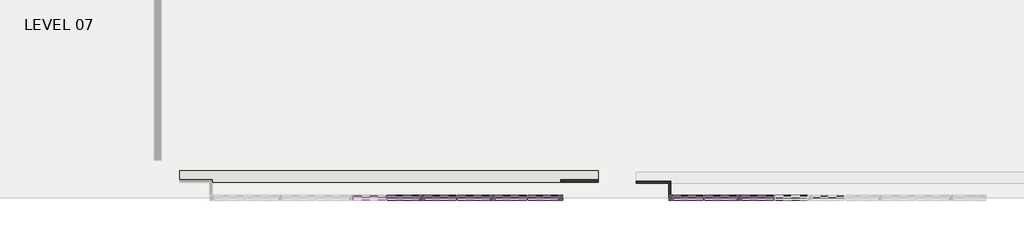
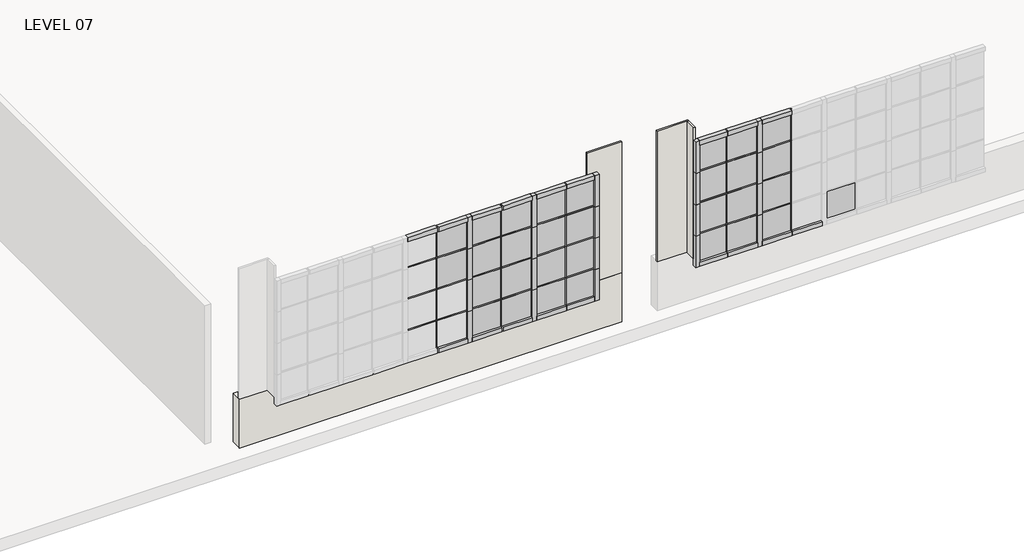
# One storey, part 3 of 15: 85 members, 31 plates, 4 walls.
"""IFC4 building model written with IfcOpenShell, lengths in millimetres."""

from ifc_helpers import new_model, si_unit, frame, origin, place, context, project, spatial, polyline, outline, extrude, faceted_brep, transform, mapped, element, save
from components import member_78bb2ef1, member_cb03ba1c, member_aa53491b, member_c1b5942e, member_9d26962d, member_378e0c06, member_17eb62f4, system_panel_glazed_79ade883, system_panel_glazed_12cc9f41, system_panel_glazed_730530c4, system_panel_glazed_b8d6571b

model = new_model("IFC4")

# Units and contexts
model_context = context("Model", 3, world=origin())
ifc_project = project(units=[si_unit("LENGTHUNIT", "METRE", prefix="MILLI")], contexts=[model_context])

# Site, building, storey
site = spatial("IfcSite", under=ifc_project)
building = spatial("IfcBuilding", under=site)
storey = spatial("IfcBuildingStorey", under=building, Name="LEVEL 07", Elevation=20802.6)

# Members
placement = place(None, origin())
member_shape = member_78bb2ef1(model_context)
element("IfcMember", 1, ObjectType="Rectangular Mullion : 1\" x 1\" - Butt Joint", at=placement, inside=storey, context=model_context, shape_type="MappedRepresentation", body=[
    mapped(member_shape, transform((-26493.9121217, -25119.8112062, 23342.6), x_axis=(1.0, 0.0, 0.0), y_axis=(0.0, -1.0, 0.0), z_axis=(0.0, 0.0, -1.0))),
])
element("IfcMember", 2, ObjectType="Rectangular Mullion : 1\" x 1\" - Butt Joint", at=placement, inside=storey, context=model_context, shape_type="MappedRepresentation", body=[
    mapped(member_shape, transform((-25355.9921217, -25119.8112062, 23342.6), x_axis=(1.0, 0.0, 0.0), y_axis=(0.0, -1.0, 0.0), z_axis=(0.0, 0.0, -1.0))),
])
element("IfcMember", 3, ObjectType="Rectangular Mullion : 1\" x 1\" - Butt Joint", at=placement, inside=storey, context=model_context, shape_type="MappedRepresentation", body=[
    mapped(member_shape, transform((-24218.0721217, -25119.8112062, 23342.6), x_axis=(1.0, 0.0, 0.0), y_axis=(0.0, -1.0, 0.0), z_axis=(0.0, 0.0, -1.0))),
])
element("IfcMember", 4, ObjectType="Rectangular Mullion : 1\" x 1\" - Butt Joint", at=placement, inside=storey, context=model_context, shape_type="MappedRepresentation", body=[
    mapped(member_shape, transform((-21377.1985758, -25119.8112062, 23342.6), x_axis=(1.0, 0.0, 0.0), y_axis=(0.0, -1.0, 0.0), z_axis=(0.0, 0.0, -1.0))),
])
element("IfcMember", 5, ObjectType="Rectangular Mullion : 1\" x 1\" - Butt Joint", at=placement, inside=storey, context=model_context, shape_type="MappedRepresentation", body=[
    mapped(member_shape, transform((-20239.2785758, -25119.8112062, 23342.6), x_axis=(1.0, 0.0, 0.0), y_axis=(0.0, -1.0, 0.0), z_axis=(0.0, 0.0, -1.0))),
])
member_2_shape = member_cb03ba1c(model_context)
element("IfcMember", 6, ObjectType="Rectangular Mullion : 1\" x 1\" - Butt Joint", at=placement, inside=storey, context=model_context, shape_type="MappedRepresentation", body=[
    mapped(member_2_shape, transform((-24825.1321217, -25119.8112062, 23342.6), x_axis=(0.0, 0.0, 1.0), y_axis=(0.0, -1.0, 0.0), z_axis=(1.0, 0.0, 0.0))),
])
element("IfcMember", 7, ObjectType="Rectangular Mullion : 1\" x 1\" - Butt Joint", at=placement, inside=storey, context=model_context, shape_type="MappedRepresentation", body=[
    mapped(member_2_shape, transform((-25963.0521217, -25119.8112062, 23342.6), x_axis=(0.0, 0.0, 1.0), y_axis=(0.0, -1.0, 0.0), z_axis=(1.0, 0.0, 0.0))),
])
element("IfcMember", 8, ObjectType="Rectangular Mullion : 1\" x 1\" - Butt Joint", at=placement, inside=storey, context=model_context, shape_type="MappedRepresentation", body=[
    mapped(member_2_shape, transform((-24230.7721217, -25119.8112062, 23342.6), x_axis=(0.0, 0.0, 1.0), y_axis=(0.0, -1.0, 0.0), z_axis=(1.0, 0.0, 0.0))),
])
element("IfcMember", 9, ObjectType="Rectangular Mullion : 1\" x 1\" - Butt Joint", at=placement, inside=storey, context=model_context, shape_type="MappedRepresentation", body=[
    mapped(member_2_shape, transform((-25368.6921217, -25119.8112062, 23342.6), x_axis=(0.0, 0.0, 1.0), y_axis=(0.0, -1.0, 0.0), z_axis=(1.0, 0.0, 0.0))),
])
element("IfcMember", 10, ObjectType="Rectangular Mullion : 1\" x 1\" - Butt Joint", at=placement, inside=storey, context=model_context, shape_type="MappedRepresentation", body=[
    mapped(member_2_shape, transform((-26506.6121217, -25119.8112062, 23342.6), x_axis=(0.0, 0.0, 1.0), y_axis=(0.0, -1.0, 0.0), z_axis=(1.0, 0.0, 0.0))),
])
element("IfcMember", 11, ObjectType="Rectangular Mullion : 1\" x 1\" - Butt Joint", at=placement, inside=storey, context=model_context, shape_type="MappedRepresentation", body=[
    mapped(member_2_shape, transform((-24825.1321217, -25119.8112062, 22758.4), x_axis=(0.0, 0.0, 1.0), y_axis=(0.0, -1.0, 0.0), z_axis=(1.0, 0.0, 0.0))),
])
element("IfcMember", 12, ObjectType="Rectangular Mullion : 1\" x 1\" - Butt Joint", at=placement, inside=storey, context=model_context, shape_type="MappedRepresentation", body=[
    mapped(member_2_shape, transform((-25963.0521217, -25119.8112062, 22758.4), x_axis=(0.0, 0.0, 1.0), y_axis=(0.0, -1.0, 0.0), z_axis=(1.0, 0.0, 0.0))),
])
element("IfcMember", 13, ObjectType="Rectangular Mullion : 1\" x 1\" - Butt Joint", at=placement, inside=storey, context=model_context, shape_type="MappedRepresentation", body=[
    mapped(member_2_shape, transform((-24230.7721217, -25119.8112062, 22758.4), x_axis=(0.0, 0.0, 1.0), y_axis=(0.0, -1.0, 0.0), z_axis=(1.0, 0.0, 0.0))),
])
element("IfcMember", 14, ObjectType="Rectangular Mullion : 1\" x 1\" - Butt Joint", at=placement, inside=storey, context=model_context, shape_type="MappedRepresentation", body=[
    mapped(member_2_shape, transform((-25368.6921217, -25119.8112062, 22758.4), x_axis=(0.0, 0.0, 1.0), y_axis=(0.0, -1.0, 0.0), z_axis=(1.0, 0.0, 0.0))),
])
element("IfcMember", 15, ObjectType="Rectangular Mullion : 1\" x 1\" - Butt Joint", at=placement, inside=storey, context=model_context, shape_type="MappedRepresentation", body=[
    mapped(member_2_shape, transform((-26506.6121217, -25119.8112062, 22758.4), x_axis=(0.0, 0.0, 1.0), y_axis=(0.0, -1.0, 0.0), z_axis=(1.0, 0.0, 0.0))),
])
element("IfcMember", 16, ObjectType="Rectangular Mullion : 1\" x 1\" - Butt Joint", at=placement, inside=storey, context=model_context, shape_type="MappedRepresentation", body=[
    mapped(member_2_shape, transform((-24825.1321217, -25119.8112062, 22174.2), x_axis=(0.0, 0.0, 1.0), y_axis=(0.0, -1.0, 0.0), z_axis=(1.0, 0.0, 0.0))),
])
element("IfcMember", 17, ObjectType="Rectangular Mullion : 1\" x 1\" - Butt Joint", at=placement, inside=storey, context=model_context, shape_type="MappedRepresentation", body=[
    mapped(member_2_shape, transform((-25963.0521217, -25119.8112062, 22174.2), x_axis=(0.0, 0.0, 1.0), y_axis=(0.0, -1.0, 0.0), z_axis=(1.0, 0.0, 0.0))),
])
element("IfcMember", 18, ObjectType="Rectangular Mullion : 1\" x 1\" - Butt Joint", at=placement, inside=storey, context=model_context, shape_type="MappedRepresentation", body=[
    mapped(member_2_shape, transform((-24230.7721217, -25119.8112062, 22174.2), x_axis=(0.0, 0.0, 1.0), y_axis=(0.0, -1.0, 0.0), z_axis=(1.0, 0.0, 0.0))),
])
element("IfcMember", 19, ObjectType="Rectangular Mullion : 1\" x 1\" - Butt Joint", at=placement, inside=storey, context=model_context, shape_type="MappedRepresentation", body=[
    mapped(member_2_shape, transform((-25368.6921217, -25119.8112062, 22174.2), x_axis=(0.0, 0.0, 1.0), y_axis=(0.0, -1.0, 0.0), z_axis=(1.0, 0.0, 0.0))),
])
element("IfcMember", 20, ObjectType="Rectangular Mullion : 1\" x 1\" - Butt Joint", at=placement, inside=storey, context=model_context, shape_type="MappedRepresentation", body=[
    mapped(member_2_shape, transform((-26506.6121217, -25119.8112062, 22174.2), x_axis=(0.0, 0.0, 1.0), y_axis=(0.0, -1.0, 0.0), z_axis=(1.0, 0.0, 0.0))),
])
element("IfcMember", 21, ObjectType="Rectangular Mullion : 1\" x 1\" - Butt Joint", at=placement, inside=storey, context=model_context, shape_type="MappedRepresentation", body=[
    mapped(member_2_shape, transform((-20846.3385758, -25119.8112062, 23342.6), x_axis=(0.0, 0.0, 1.0), y_axis=(0.0, -1.0, 0.0), z_axis=(1.0, 0.0, 0.0))),
])
element("IfcMember", 22, ObjectType="Rectangular Mullion : 1\" x 1\" - Butt Joint", at=placement, inside=storey, context=model_context, shape_type="MappedRepresentation", body=[
    mapped(member_2_shape, transform((-20251.9785758, -25119.8112062, 23342.6), x_axis=(0.0, 0.0, 1.0), y_axis=(0.0, -1.0, 0.0), z_axis=(1.0, 0.0, 0.0))),
])
element("IfcMember", 23, ObjectType="Rectangular Mullion : 1\" x 1\" - Butt Joint", at=placement, inside=storey, context=model_context, shape_type="MappedRepresentation", body=[
    mapped(member_2_shape, transform((-20846.3385758, -25119.8112062, 22758.4), x_axis=(0.0, 0.0, 1.0), y_axis=(0.0, -1.0, 0.0), z_axis=(1.0, 0.0, 0.0))),
])
element("IfcMember", 24, ObjectType="Rectangular Mullion : 1\" x 1\" - Butt Joint", at=placement, inside=storey, context=model_context, shape_type="MappedRepresentation", body=[
    mapped(member_2_shape, transform((-20251.9785758, -25119.8112062, 22758.4), x_axis=(0.0, 0.0, 1.0), y_axis=(0.0, -1.0, 0.0), z_axis=(1.0, 0.0, 0.0))),
])
element("IfcMember", 25, ObjectType="Rectangular Mullion : 1\" x 1\" - Butt Joint", at=placement, inside=storey, context=model_context, shape_type="MappedRepresentation", body=[
    mapped(member_2_shape, transform((-20846.3385758, -25119.8112062, 22174.2), x_axis=(0.0, 0.0, 1.0), y_axis=(0.0, -1.0, 0.0), z_axis=(1.0, 0.0, 0.0))),
])
element("IfcMember", 26, ObjectType="Rectangular Mullion : 1\" x 1\" - Butt Joint", at=placement, inside=storey, context=model_context, shape_type="MappedRepresentation", body=[
    mapped(member_2_shape, transform((-20251.9785758, -25119.8112062, 22174.2), x_axis=(0.0, 0.0, 1.0), y_axis=(0.0, -1.0, 0.0), z_axis=(1.0, 0.0, 0.0))),
])
member_3_shape = member_aa53491b(model_context)
element("IfcMember", 27, ObjectType="Rectangular Mullion : 1\" x 1\" - Butt Joint", at=placement, inside=storey, context=model_context, shape_type="MappedRepresentation", body=[
    mapped(member_3_shape, transform((-23725.3121217, -25119.8112062, 23342.6), x_axis=(0.0, 0.0, 1.0), y_axis=(0.0, -1.0, 0.0), z_axis=(1.0, 0.0, 0.0))),
])
element("IfcMember", 28, ObjectType="Rectangular Mullion : 1\" x 1\" - Butt Joint", at=placement, inside=storey, context=model_context, shape_type="MappedRepresentation", body=[
    mapped(member_3_shape, transform((-23725.3121217, -25119.8112062, 22758.4), x_axis=(0.0, 0.0, 1.0), y_axis=(0.0, -1.0, 0.0), z_axis=(1.0, 0.0, 0.0))),
])
element("IfcMember", 29, ObjectType="Rectangular Mullion : 1\" x 1\" - Butt Joint", at=placement, inside=storey, context=model_context, shape_type="MappedRepresentation", body=[
    mapped(member_3_shape, transform((-23725.3121217, -25119.8112062, 22174.2), x_axis=(0.0, 0.0, 1.0), y_axis=(0.0, -1.0, 0.0), z_axis=(1.0, 0.0, 0.0))),
])
element("IfcMember", 30, ObjectType="Rectangular Mullion : 1\" x 1\" - Butt Joint", at=placement, inside=storey, context=model_context, shape_type="MappedRepresentation", body=[
    mapped(member_3_shape, transform((-21389.8985758, -25119.8112062, 23342.6), x_axis=(0.0, 0.0, 1.0), y_axis=(0.0, -1.0, 0.0), z_axis=(1.0, 0.0, 0.0))),
])
element("IfcMember", 31, ObjectType="Rectangular Mullion : 1\" x 1\" - Butt Joint", at=placement, inside=storey, context=model_context, shape_type="MappedRepresentation", body=[
    mapped(member_3_shape, transform((-21389.8985758, -25119.8112062, 22758.4), x_axis=(0.0, 0.0, 1.0), y_axis=(0.0, -1.0, 0.0), z_axis=(1.0, 0.0, 0.0))),
])
element("IfcMember", 32, ObjectType="Rectangular Mullion : 1\" x 1\" - Butt Joint", at=placement, inside=storey, context=model_context, shape_type="MappedRepresentation", body=[
    mapped(member_3_shape, transform((-21389.8985758, -25119.8112062, 22174.2), x_axis=(0.0, 0.0, 1.0), y_axis=(0.0, -1.0, 0.0), z_axis=(1.0, 0.0, 0.0))),
])
element("IfcMember", 33, ObjectType="Rectangular Mullion : 1\" x 1\" - Butt Joint", at=placement, inside=storey, context=model_context, shape_type="MappedRepresentation", body=[
    mapped(member_shape, transform((-26493.9121217, -25119.8112062, 22758.4), x_axis=(1.0, 0.0, 0.0), y_axis=(0.0, -1.0, 0.0), z_axis=(0.0, 0.0, -1.0))),
])
element("IfcMember", 34, ObjectType="Rectangular Mullion : 1\" x 1\" - Butt Joint", at=placement, inside=storey, context=model_context, shape_type="MappedRepresentation", body=[
    mapped(member_shape, transform((-26493.9121217, -25119.8112062, 22174.2), x_axis=(1.0, 0.0, 0.0), y_axis=(0.0, -1.0, 0.0), z_axis=(0.0, 0.0, -1.0))),
])
element("IfcMember", 35, ObjectType="Rectangular Mullion : 1\" x 1\" - Butt Joint", at=placement, inside=storey, context=model_context, shape_type="MappedRepresentation", body=[
    mapped(member_shape, transform((-25355.9921217, -25119.8112062, 22758.4), x_axis=(1.0, 0.0, 0.0), y_axis=(0.0, -1.0, 0.0), z_axis=(0.0, 0.0, -1.0))),
])
element("IfcMember", 36, ObjectType="Rectangular Mullion : 1\" x 1\" - Butt Joint", at=placement, inside=storey, context=model_context, shape_type="MappedRepresentation", body=[
    mapped(member_shape, transform((-25355.9921217, -25119.8112062, 22174.2), x_axis=(1.0, 0.0, 0.0), y_axis=(0.0, -1.0, 0.0), z_axis=(0.0, 0.0, -1.0))),
])
element("IfcMember", 37, ObjectType="Rectangular Mullion : 1\" x 1\" - Butt Joint", at=placement, inside=storey, context=model_context, shape_type="MappedRepresentation", body=[
    mapped(member_shape, transform((-24218.0721217, -25119.8112062, 22758.4), x_axis=(1.0, 0.0, 0.0), y_axis=(0.0, -1.0, 0.0), z_axis=(0.0, 0.0, -1.0))),
])
element("IfcMember", 38, ObjectType="Rectangular Mullion : 1\" x 1\" - Butt Joint", at=placement, inside=storey, context=model_context, shape_type="MappedRepresentation", body=[
    mapped(member_shape, transform((-24218.0721217, -25119.8112062, 22174.2), x_axis=(1.0, 0.0, 0.0), y_axis=(0.0, -1.0, 0.0), z_axis=(0.0, 0.0, -1.0))),
])
element("IfcMember", 39, ObjectType="Rectangular Mullion : 1\" x 1\" - Butt Joint", at=placement, inside=storey, context=model_context, shape_type="MappedRepresentation", body=[
    mapped(member_shape, transform((-21377.1985758, -25119.8112062, 22758.4), x_axis=(1.0, 0.0, 0.0), y_axis=(0.0, -1.0, 0.0), z_axis=(0.0, 0.0, -1.0))),
])
element("IfcMember", 40, ObjectType="Rectangular Mullion : 1\" x 1\" - Butt Joint", at=placement, inside=storey, context=model_context, shape_type="MappedRepresentation", body=[
    mapped(member_shape, transform((-21377.1985758, -25119.8112062, 22174.2), x_axis=(1.0, 0.0, 0.0), y_axis=(0.0, -1.0, 0.0), z_axis=(0.0, 0.0, -1.0))),
])
element("IfcMember", 41, ObjectType="Rectangular Mullion : 1\" x 1\" - Butt Joint", at=placement, inside=storey, context=model_context, shape_type="MappedRepresentation", body=[
    mapped(member_shape, transform((-20239.2785758, -25119.8112062, 22758.4), x_axis=(1.0, 0.0, 0.0), y_axis=(0.0, -1.0, 0.0), z_axis=(0.0, 0.0, -1.0))),
])
element("IfcMember", 42, ObjectType="Rectangular Mullion : 1\" x 1\" - Butt Joint", at=placement, inside=storey, context=model_context, shape_type="MappedRepresentation", body=[
    mapped(member_shape, transform((-20239.2785758, -25119.8112062, 22174.2), x_axis=(1.0, 0.0, 0.0), y_axis=(0.0, -1.0, 0.0), z_axis=(0.0, 0.0, -1.0))),
])
element("IfcMember", 43, ObjectType="Rectangular Mullion : 1\" x 1\" - Butt Joint", at=placement, inside=storey, context=model_context, shape_type="MappedRepresentation", body=[
    mapped(member_shape, transform((-26493.9121217, -25119.8112062, 21590.0), x_axis=(1.0, 0.0, 0.0), y_axis=(0.0, -1.0, 0.0), z_axis=(0.0, 0.0, -1.0))),
])
element("IfcMember", 44, ObjectType="Rectangular Mullion : 1\" x 1\" - Butt Joint", at=placement, inside=storey, context=model_context, shape_type="MappedRepresentation", body=[
    mapped(member_shape, transform((-25355.9921217, -25119.8112062, 21590.0), x_axis=(1.0, 0.0, 0.0), y_axis=(0.0, -1.0, 0.0), z_axis=(0.0, 0.0, -1.0))),
])
element("IfcMember", 45, ObjectType="Rectangular Mullion : 1\" x 1\" - Butt Joint", at=placement, inside=storey, context=model_context, shape_type="MappedRepresentation", body=[
    mapped(member_shape, transform((-24218.0721217, -25119.8112062, 21590.0), x_axis=(1.0, 0.0, 0.0), y_axis=(0.0, -1.0, 0.0), z_axis=(0.0, 0.0, -1.0))),
])
element("IfcMember", 46, ObjectType="Rectangular Mullion : 1\" x 1\" - Butt Joint", at=placement, inside=storey, context=model_context, shape_type="MappedRepresentation", body=[
    mapped(member_shape, transform((-21377.1985758, -25119.8112062, 21590.0), x_axis=(1.0, 0.0, 0.0), y_axis=(0.0, -1.0, 0.0), z_axis=(0.0, 0.0, -1.0))),
])
element("IfcMember", 47, ObjectType="Rectangular Mullion : 1\" x 1\" - Butt Joint", at=placement, inside=storey, context=model_context, shape_type="MappedRepresentation", body=[
    mapped(member_shape, transform((-20239.2785758, -25119.8112062, 21590.0), x_axis=(1.0, 0.0, 0.0), y_axis=(0.0, -1.0, 0.0), z_axis=(0.0, 0.0, -1.0))),
])
member_4_shape = member_c1b5942e(model_context)
element("IfcMember", 48, ObjectType="Rectangular Mullion : 3\" x 3\" Window Jamb", at=placement, inside=storey, context=model_context, shape_type="MappedRepresentation", body=[
    mapped(member_4_shape, transform((-25343.2921217, -25119.8112062, 21590.0), x_axis=(0.0, 0.0, -1.0), y_axis=(0.0, -1.0, 0.0), z_axis=(-1.0, 0.0, 0.0))),
])
element("IfcMember", 49, ObjectType="Rectangular Mullion : 3\" x 3\" Window Jamb", at=placement, inside=storey, context=model_context, shape_type="MappedRepresentation", body=[
    mapped(member_4_shape, transform((-26481.2121217, -25119.8112062, 21590.0), x_axis=(0.0, 0.0, -1.0), y_axis=(0.0, -1.0, 0.0), z_axis=(-1.0, 0.0, 0.0))),
])
element("IfcMember", 50, ObjectType="Rectangular Mullion : 3\" x 3\" Window Jamb", at=placement, inside=storey, context=model_context, shape_type="MappedRepresentation", body=[
    mapped(member_4_shape, transform((-24748.9321217, -25119.8112062, 21590.0), x_axis=(0.0, 0.0, -1.0), y_axis=(0.0, -1.0, 0.0), z_axis=(-1.0, 0.0, 0.0))),
])
element("IfcMember", 51, ObjectType="Rectangular Mullion : 3\" x 3\" Window Jamb", at=placement, inside=storey, context=model_context, shape_type="MappedRepresentation", body=[
    mapped(member_4_shape, transform((-25886.8521217, -25119.8112062, 21590.0), x_axis=(0.0, 0.0, -1.0), y_axis=(0.0, -1.0, 0.0), z_axis=(-1.0, 0.0, 0.0))),
])
element("IfcMember", 52, ObjectType="Rectangular Mullion : 3\" x 3\" Window Jamb", at=placement, inside=storey, context=model_context, shape_type="MappedRepresentation", body=[
    mapped(member_4_shape, transform((-20226.5785758, -25119.8112062, 21590.0), x_axis=(0.0, 0.0, -1.0), y_axis=(0.0, -1.0, 0.0), z_axis=(-1.0, 0.0, 0.0))),
])
element("IfcMember", 53, ObjectType="Rectangular Mullion : 3\" x 3\" Window Jamb", at=placement, inside=storey, context=model_context, shape_type="MappedRepresentation", body=[
    mapped(member_4_shape, transform((-21364.4985758, -25119.8112062, 21590.0), x_axis=(0.0, 0.0, -1.0), y_axis=(0.0, -1.0, 0.0), z_axis=(-1.0, 0.0, 0.0))),
])
element("IfcMember", 54, ObjectType="Rectangular Mullion : 3\" x 3\" Window Jamb", at=placement, inside=storey, context=model_context, shape_type="MappedRepresentation", body=[
    mapped(member_4_shape, transform((-20770.1385758, -25119.8112062, 21590.0), x_axis=(0.0, 0.0, -1.0), y_axis=(0.0, -1.0, 0.0), z_axis=(-1.0, 0.0, 0.0))),
])
member_5_shape = member_9d26962d(model_context)
element("IfcMember", 55, ObjectType="Rectangular Mullion : 3\" x 3\" Window Jamb", at=placement, inside=storey, context=model_context, shape_type="MappedRepresentation", body=[
    mapped(member_5_shape, transform((-24205.3721217, -25119.8112062, 21590.0), x_axis=(0.0, 0.0, -1.0), y_axis=(0.0, -1.0, 0.0), z_axis=(-1.0, 0.0, 0.0))),
])
element("IfcMember", 56, ObjectType="Rectangular Mullion : 3\" x 3\" Window Jamb", at=placement, inside=storey, context=model_context, shape_type="MappedRepresentation", body=[
    mapped(member_5_shape, transform((-21869.9585758, -25119.8112062, 21590.0), x_axis=(0.0, 0.0, -1.0), y_axis=(0.0, -1.0, 0.0), z_axis=(-1.0, 0.0, 0.0))),
])
element("IfcMember", 57, ObjectType="Rectangular Mullion : 3\" x 3\" Window Jamb", at=placement, inside=storey, context=model_context, shape_type="MappedRepresentation", body=[
    mapped(member_5_shape, transform((-23725.3121217, -25119.8112062, 23926.8), x_axis=(0.0, 0.0, 1.0), y_axis=(0.0, -1.0, 0.0), z_axis=(1.0, 0.0, 0.0))),
])
element("IfcMember", 58, ObjectType="Rectangular Mullion : 3\" x 3\" Window Jamb", at=placement, inside=storey, context=model_context, shape_type="MappedRepresentation", body=[
    mapped(member_5_shape, transform((-21389.8985758, -25119.8112062, 23926.8), x_axis=(0.0, 0.0, 1.0), y_axis=(0.0, -1.0, 0.0), z_axis=(1.0, 0.0, 0.0))),
])
element("IfcMember", 59, ObjectType="Rectangular Mullion : 3\" x 3\" Window Jamb", at=placement, inside=storey, context=model_context, shape_type="MappedRepresentation", body=[
    mapped(member_4_shape, transform((-24230.7721217, -25119.8112062, 23926.8), x_axis=(0.0, 0.0, 1.0), y_axis=(0.0, -1.0, 0.0), z_axis=(1.0, 0.0, 0.0))),
])
element("IfcMember", 60, ObjectType="Rectangular Mullion : 3\" x 3\" Window Jamb", at=placement, inside=storey, context=model_context, shape_type="MappedRepresentation", body=[
    mapped(member_4_shape, transform((-25368.6921217, -25119.8112062, 23926.8), x_axis=(0.0, 0.0, 1.0), y_axis=(0.0, -1.0, 0.0), z_axis=(1.0, 0.0, 0.0))),
])
element("IfcMember", 61, ObjectType="Rectangular Mullion : 3\" x 3\" Window Jamb", at=placement, inside=storey, context=model_context, shape_type="MappedRepresentation", body=[
    mapped(member_4_shape, transform((-26506.6121217, -25119.8112062, 23926.8), x_axis=(0.0, 0.0, 1.0), y_axis=(0.0, -1.0, 0.0), z_axis=(1.0, 0.0, 0.0))),
])
element("IfcMember", 62, ObjectType="Rectangular Mullion : 3\" x 3\" Window Jamb", at=placement, inside=storey, context=model_context, shape_type="MappedRepresentation", body=[
    mapped(member_4_shape, transform((-24825.1321217, -25119.8112062, 23926.8), x_axis=(0.0, 0.0, 1.0), y_axis=(0.0, -1.0, 0.0), z_axis=(1.0, 0.0, 0.0))),
])
element("IfcMember", 63, ObjectType="Rectangular Mullion : 3\" x 3\" Window Jamb", at=placement, inside=storey, context=model_context, shape_type="MappedRepresentation", body=[
    mapped(member_4_shape, transform((-25963.0521217, -25119.8112062, 23926.8), x_axis=(0.0, 0.0, 1.0), y_axis=(0.0, -1.0, 0.0), z_axis=(1.0, 0.0, 0.0))),
])
element("IfcMember", 64, ObjectType="Rectangular Mullion : 3\" x 3\" Window Jamb", at=placement, inside=storey, context=model_context, shape_type="MappedRepresentation", body=[
    mapped(member_4_shape, transform((-20251.9785758, -25119.8112062, 23926.8), x_axis=(0.0, 0.0, 1.0), y_axis=(0.0, -1.0, 0.0), z_axis=(1.0, 0.0, 0.0))),
])
element("IfcMember", 65, ObjectType="Rectangular Mullion : 3\" x 3\" Window Jamb", at=placement, inside=storey, context=model_context, shape_type="MappedRepresentation", body=[
    mapped(member_4_shape, transform((-20846.3385758, -25119.8112062, 23926.8), x_axis=(0.0, 0.0, 1.0), y_axis=(0.0, -1.0, 0.0), z_axis=(1.0, 0.0, 0.0))),
])
member_6_shape = member_378e0c06(model_context)
element("IfcMember", 66, ObjectType="Rectangular Mullion : 3\" x 3\" Window Jamb", at=placement, inside=storey, context=model_context, shape_type="MappedRepresentation", body=[
    mapped(member_6_shape, transform((-25924.9521217, -25119.8112062, 23342.6), x_axis=(1.0, 0.0, 0.0), y_axis=(0.0, -1.0, 0.0), z_axis=(0.0, 0.0, -1.0))),
])
element("IfcMember", 67, ObjectType="Rectangular Mullion : 3\" x 3\" Window Jamb", at=placement, inside=storey, context=model_context, shape_type="MappedRepresentation", body=[
    mapped(member_6_shape, transform((-24787.0321217, -25119.8112062, 23342.6), x_axis=(1.0, 0.0, 0.0), y_axis=(0.0, -1.0, 0.0), z_axis=(0.0, 0.0, -1.0))),
])
element("IfcMember", 68, ObjectType="Rectangular Mullion : 3\" x 3\" Window Jamb", at=placement, inside=storey, context=model_context, shape_type="MappedRepresentation", body=[
    mapped(member_6_shape, transform((-20808.2385758, -25119.8112062, 23342.6), x_axis=(1.0, 0.0, 0.0), y_axis=(0.0, -1.0, 0.0), z_axis=(0.0, 0.0, -1.0))),
])
member_7_shape = member_17eb62f4(model_context)
element("IfcMember", 69, ObjectType="Rectangular Mullion : 3\" x 3\" Window Jamb", at=placement, inside=storey, context=model_context, shape_type="MappedRepresentation", body=[
    mapped(member_7_shape, transform((-23649.1121217, -25119.8112062, 23342.6), x_axis=(1.0, 0.0, 0.0), y_axis=(0.0, -1.0, 0.0), z_axis=(0.0, 0.0, -1.0))),
])
element("IfcMember", 70, ObjectType="Rectangular Mullion : 3\" x 3\" Window Jamb", at=placement, inside=storey, context=model_context, shape_type="MappedRepresentation", body=[
    mapped(member_7_shape, transform((-21946.1585758, -25119.8112062, 23926.8), x_axis=(-1.0, 0.0, 0.0), y_axis=(0.0, -1.0, 0.0), z_axis=(0.0, 0.0, 1.0))),
])
element("IfcMember", 71, ObjectType="Rectangular Mullion : 3\" x 3\" Window Jamb", at=placement, inside=storey, context=model_context, shape_type="MappedRepresentation", body=[
    mapped(member_6_shape, transform((-25924.9521217, -25119.8112062, 22758.4), x_axis=(1.0, 0.0, 0.0), y_axis=(0.0, -1.0, 0.0), z_axis=(0.0, 0.0, -1.0))),
])
element("IfcMember", 72, ObjectType="Rectangular Mullion : 3\" x 3\" Window Jamb", at=placement, inside=storey, context=model_context, shape_type="MappedRepresentation", body=[
    mapped(member_6_shape, transform((-25924.9521217, -25119.8112062, 22174.2), x_axis=(1.0, 0.0, 0.0), y_axis=(0.0, -1.0, 0.0), z_axis=(0.0, 0.0, -1.0))),
])
element("IfcMember", 73, ObjectType="Rectangular Mullion : 3\" x 3\" Window Jamb", at=placement, inside=storey, context=model_context, shape_type="MappedRepresentation", body=[
    mapped(member_6_shape, transform((-24787.0321217, -25119.8112062, 22758.4), x_axis=(1.0, 0.0, 0.0), y_axis=(0.0, -1.0, 0.0), z_axis=(0.0, 0.0, -1.0))),
])
element("IfcMember", 74, ObjectType="Rectangular Mullion : 3\" x 3\" Window Jamb", at=placement, inside=storey, context=model_context, shape_type="MappedRepresentation", body=[
    mapped(member_6_shape, transform((-24787.0321217, -25119.8112062, 22174.2), x_axis=(1.0, 0.0, 0.0), y_axis=(0.0, -1.0, 0.0), z_axis=(0.0, 0.0, -1.0))),
])
element("IfcMember", 75, ObjectType="Rectangular Mullion : 3\" x 3\" Window Jamb", at=placement, inside=storey, context=model_context, shape_type="MappedRepresentation", body=[
    mapped(member_6_shape, transform((-20808.2385758, -25119.8112062, 22758.4), x_axis=(1.0, 0.0, 0.0), y_axis=(0.0, -1.0, 0.0), z_axis=(0.0, 0.0, -1.0))),
])
element("IfcMember", 76, ObjectType="Rectangular Mullion : 3\" x 3\" Window Jamb", at=placement, inside=storey, context=model_context, shape_type="MappedRepresentation", body=[
    mapped(member_6_shape, transform((-20808.2385758, -25119.8112062, 22174.2), x_axis=(1.0, 0.0, 0.0), y_axis=(0.0, -1.0, 0.0), z_axis=(0.0, 0.0, -1.0))),
])
element("IfcMember", 77, ObjectType="Rectangular Mullion : 3\" x 3\" Window Jamb", at=placement, inside=storey, context=model_context, shape_type="MappedRepresentation", body=[
    mapped(member_7_shape, transform((-23649.1121217, -25119.8112062, 22758.4), x_axis=(1.0, 0.0, 0.0), y_axis=(0.0, -1.0, 0.0), z_axis=(0.0, 0.0, -1.0))),
])
element("IfcMember", 78, ObjectType="Rectangular Mullion : 3\" x 3\" Window Jamb", at=placement, inside=storey, context=model_context, shape_type="MappedRepresentation", body=[
    mapped(member_7_shape, transform((-23649.1121217, -25119.8112062, 22174.2), x_axis=(1.0, 0.0, 0.0), y_axis=(0.0, -1.0, 0.0), z_axis=(0.0, 0.0, -1.0))),
])
element("IfcMember", 79, ObjectType="Rectangular Mullion : 3\" x 3\" Window Jamb", at=placement, inside=storey, context=model_context, shape_type="MappedRepresentation", body=[
    mapped(member_7_shape, transform((-21946.1585758, -25119.8112062, 23342.6), x_axis=(-1.0, 0.0, 0.0), y_axis=(0.0, -1.0, 0.0), z_axis=(0.0, 0.0, 1.0))),
])
element("IfcMember", 80, ObjectType="Rectangular Mullion : 3\" x 3\" Window Jamb", at=placement, inside=storey, context=model_context, shape_type="MappedRepresentation", body=[
    mapped(member_7_shape, transform((-21946.1585758, -25119.8112062, 22758.4), x_axis=(-1.0, 0.0, 0.0), y_axis=(0.0, -1.0, 0.0), z_axis=(0.0, 0.0, 1.0))),
])
element("IfcMember", 81, ObjectType="Rectangular Mullion : 3\" x 3\" Window Jamb", at=placement, inside=storey, context=model_context, shape_type="MappedRepresentation", body=[
    mapped(member_6_shape, transform((-25924.9521217, -25119.8112062, 21590.0), x_axis=(1.0, 0.0, 0.0), y_axis=(0.0, -1.0, 0.0), z_axis=(0.0, 0.0, -1.0))),
])
element("IfcMember", 82, ObjectType="Rectangular Mullion : 3\" x 3\" Window Jamb", at=placement, inside=storey, context=model_context, shape_type="MappedRepresentation", body=[
    mapped(member_6_shape, transform((-24787.0321217, -25119.8112062, 21590.0), x_axis=(1.0, 0.0, 0.0), y_axis=(0.0, -1.0, 0.0), z_axis=(0.0, 0.0, -1.0))),
])
element("IfcMember", 83, ObjectType="Rectangular Mullion : 3\" x 3\" Window Jamb", at=placement, inside=storey, context=model_context, shape_type="MappedRepresentation", body=[
    mapped(member_6_shape, transform((-20808.2385758, -25119.8112062, 21590.0), x_axis=(1.0, 0.0, 0.0), y_axis=(0.0, -1.0, 0.0), z_axis=(0.0, 0.0, -1.0))),
])
element("IfcMember", 84, ObjectType="Rectangular Mullion : 3\" x 3\" Window Jamb", at=placement, inside=storey, context=model_context, shape_type="MappedRepresentation", body=[
    mapped(member_7_shape, transform((-23649.1121217, -25119.8112062, 21590.0), x_axis=(1.0, 0.0, 0.0), y_axis=(0.0, -1.0, 0.0), z_axis=(0.0, 0.0, -1.0))),
])
element("IfcMember", 85, ObjectType="Rectangular Mullion : 3\" x 3\" Window Jamb", at=placement, inside=storey, context=model_context, shape_type="MappedRepresentation", body=[
    mapped(member_7_shape, transform((-21946.1585758, -25119.8112062, 22174.2), x_axis=(-1.0, 0.0, 0.0), y_axis=(0.0, -1.0, 0.0), z_axis=(0.0, 0.0, 1.0))),
])

# Plates
system_panel_glazed_shape = system_panel_glazed_79ade883(model_context)
element("IfcPlate", 86, ObjectType="System Panel : Glazed", at=placement, inside=storey, context=model_context, shape_type="MappedRepresentation", body=[
    mapped(system_panel_glazed_shape, transform((-23965.3421217, -25119.8112062, 21666.2), x_axis=(1.0, 0.0, 0.0), y_axis=(0.0, 1.0, 0.0), z_axis=(0.0, 0.0, 1.0))),
])
element("IfcPlate", 87, ObjectType="System Panel : Glazed", at=placement, inside=storey, context=model_context, shape_type="MappedRepresentation", body=[
    mapped(system_panel_glazed_shape, transform((-23965.3421217, -25119.8112062, 23355.3), x_axis=(1.0, 0.0, 0.0), y_axis=(0.0, 1.0, 0.0), z_axis=(0.0, 0.0, 1.0))),
])
element("IfcPlate", 88, ObjectType="System Panel : Glazed", at=placement, inside=storey, context=model_context, shape_type="MappedRepresentation", body=[
    mapped(system_panel_glazed_shape, transform((-21629.9285758, -25119.8112062, 21666.2), x_axis=(1.0, 0.0, 0.0), y_axis=(0.0, 1.0, 0.0), z_axis=(0.0, 0.0, 1.0))),
])
element("IfcPlate", 89, ObjectType="System Panel : Glazed", at=placement, inside=storey, context=model_context, shape_type="MappedRepresentation", body=[
    mapped(system_panel_glazed_shape, transform((-21629.9285758, -25119.8112062, 23355.3), x_axis=(1.0, 0.0, 0.0), y_axis=(0.0, 1.0, 0.0), z_axis=(0.0, 0.0, 1.0))),
])
system_panel_glazed_2_shape = system_panel_glazed_12cc9f41(model_context)
element("IfcPlate", 90, ObjectType="System Panel : Glazed", at=placement, inside=storey, context=model_context, shape_type="MappedRepresentation", body=[
    mapped(system_panel_glazed_2_shape, transform((-25627.7721217, -25119.8112062, 21666.2), x_axis=(1.0, 0.0, 0.0), y_axis=(0.0, 1.0, 0.0), z_axis=(0.0, 0.0, 1.0))),
])
element("IfcPlate", 91, ObjectType="System Panel : Glazed", at=placement, inside=storey, context=model_context, shape_type="MappedRepresentation", body=[
    mapped(system_panel_glazed_2_shape, transform((-24489.8521217, -25119.8112062, 21666.2), x_axis=(1.0, 0.0, 0.0), y_axis=(0.0, 1.0, 0.0), z_axis=(0.0, 0.0, 1.0))),
])
element("IfcPlate", 92, ObjectType="System Panel : Glazed", at=placement, inside=storey, context=model_context, shape_type="MappedRepresentation", body=[
    mapped(system_panel_glazed_2_shape, transform((-25627.7721217, -25119.8112062, 23355.3), x_axis=(1.0, 0.0, 0.0), y_axis=(0.0, 1.0, 0.0), z_axis=(0.0, 0.0, 1.0))),
])
element("IfcPlate", 93, ObjectType="System Panel : Glazed", at=placement, inside=storey, context=model_context, shape_type="MappedRepresentation", body=[
    mapped(system_panel_glazed_2_shape, transform((-24489.8521217, -25119.8112062, 23355.3), x_axis=(1.0, 0.0, 0.0), y_axis=(0.0, 1.0, 0.0), z_axis=(0.0, 0.0, 1.0))),
])
element("IfcPlate", 94, ObjectType="System Panel : Glazed", at=placement, inside=storey, context=model_context, shape_type="MappedRepresentation", body=[
    mapped(system_panel_glazed_2_shape, transform((-26222.1321217, -25119.8112062, 23355.3), x_axis=(1.0, 0.0, 0.0), y_axis=(0.0, 1.0, 0.0), z_axis=(0.0, 0.0, 1.0))),
])
element("IfcPlate", 95, ObjectType="System Panel : Glazed", at=placement, inside=storey, context=model_context, shape_type="MappedRepresentation", body=[
    mapped(system_panel_glazed_2_shape, transform((-25084.2121217, -25119.8112062, 21666.2), x_axis=(1.0, 0.0, 0.0), y_axis=(0.0, 1.0, 0.0), z_axis=(0.0, 0.0, 1.0))),
])
element("IfcPlate", 96, ObjectType="System Panel : Glazed", at=placement, inside=storey, context=model_context, shape_type="MappedRepresentation", body=[
    mapped(system_panel_glazed_2_shape, transform((-25084.2121217, -25119.8112062, 23355.3), x_axis=(1.0, 0.0, 0.0), y_axis=(0.0, 1.0, 0.0), z_axis=(0.0, 0.0, 1.0))),
])
element("IfcPlate", 97, ObjectType="System Panel : Glazed", at=placement, inside=storey, context=model_context, shape_type="MappedRepresentation", body=[
    mapped(system_panel_glazed_2_shape, transform((-20511.0585758, -25119.8112062, 21666.2), x_axis=(1.0, 0.0, 0.0), y_axis=(0.0, 1.0, 0.0), z_axis=(0.0, 0.0, 1.0))),
])
element("IfcPlate", 98, ObjectType="System Panel : Glazed", at=placement, inside=storey, context=model_context, shape_type="MappedRepresentation", body=[
    mapped(system_panel_glazed_2_shape, transform((-19373.1385758, -25119.8112062, 21666.2), x_axis=(1.0, 0.0, 0.0), y_axis=(0.0, 1.0, 0.0), z_axis=(0.0, 0.0, 1.0))),
])
element("IfcPlate", 99, ObjectType="System Panel : Glazed", at=placement, inside=storey, context=model_context, shape_type="MappedRepresentation", body=[
    mapped(system_panel_glazed_2_shape, transform((-20511.0585758, -25119.8112062, 23355.3), x_axis=(1.0, 0.0, 0.0), y_axis=(0.0, 1.0, 0.0), z_axis=(0.0, 0.0, 1.0))),
])
element("IfcPlate", 100, ObjectType="System Panel : Glazed", at=placement, inside=storey, context=model_context, shape_type="MappedRepresentation", body=[
    mapped(system_panel_glazed_2_shape, transform((-21105.4185758, -25119.8112062, 21666.2), x_axis=(1.0, 0.0, 0.0), y_axis=(0.0, 1.0, 0.0), z_axis=(0.0, 0.0, 1.0))),
])
element("IfcPlate", 101, ObjectType="System Panel : Glazed", at=placement, inside=storey, context=model_context, shape_type="MappedRepresentation", body=[
    mapped(system_panel_glazed_2_shape, transform((-21105.4185758, -25119.8112062, 23355.3), x_axis=(1.0, 0.0, 0.0), y_axis=(0.0, 1.0, 0.0), z_axis=(0.0, 0.0, 1.0))),
])
system_panel_glazed_3_shape = system_panel_glazed_730530c4(model_context)
element("IfcPlate", 102, ObjectType="System Panel : Glazed", at=placement, inside=storey, context=model_context, shape_type="MappedRepresentation", body=[
    mapped(system_panel_glazed_3_shape, transform((-23965.3421217, -25119.8112062, 22186.9), x_axis=(1.0, 0.0, 0.0), y_axis=(0.0, 1.0, 0.0), z_axis=(0.0, 0.0, 1.0))),
])
element("IfcPlate", 103, ObjectType="System Panel : Glazed", at=placement, inside=storey, context=model_context, shape_type="MappedRepresentation", body=[
    mapped(system_panel_glazed_3_shape, transform((-23965.3421217, -25119.8112062, 22771.1), x_axis=(1.0, 0.0, 0.0), y_axis=(0.0, 1.0, 0.0), z_axis=(0.0, 0.0, 1.0))),
])
element("IfcPlate", 104, ObjectType="System Panel : Glazed", at=placement, inside=storey, context=model_context, shape_type="MappedRepresentation", body=[
    mapped(system_panel_glazed_3_shape, transform((-21629.9285758, -25119.8112062, 22186.9), x_axis=(1.0, 0.0, 0.0), y_axis=(0.0, 1.0, 0.0), z_axis=(0.0, 0.0, 1.0))),
])
element("IfcPlate", 105, ObjectType="System Panel : Glazed", at=placement, inside=storey, context=model_context, shape_type="MappedRepresentation", body=[
    mapped(system_panel_glazed_3_shape, transform((-21629.9285758, -25119.8112062, 22771.1), x_axis=(1.0, 0.0, 0.0), y_axis=(0.0, 1.0, 0.0), z_axis=(0.0, 0.0, 1.0))),
])
system_panel_glazed_4_shape = system_panel_glazed_b8d6571b(model_context)
element("IfcPlate", 106, ObjectType="System Panel : Glazed", at=placement, inside=storey, context=model_context, shape_type="MappedRepresentation", body=[
    mapped(system_panel_glazed_4_shape, transform((-25627.7721217, -25119.8112062, 22186.9), x_axis=(1.0, 0.0, 0.0), y_axis=(0.0, 1.0, 0.0), z_axis=(0.0, 0.0, 1.0))),
])
element("IfcPlate", 107, ObjectType="System Panel : Glazed", at=placement, inside=storey, context=model_context, shape_type="MappedRepresentation", body=[
    mapped(system_panel_glazed_4_shape, transform((-24489.8521217, -25119.8112062, 22186.9), x_axis=(1.0, 0.0, 0.0), y_axis=(0.0, 1.0, 0.0), z_axis=(0.0, 0.0, 1.0))),
])
element("IfcPlate", 108, ObjectType="System Panel : Glazed", at=placement, inside=storey, context=model_context, shape_type="MappedRepresentation", body=[
    mapped(system_panel_glazed_4_shape, transform((-25627.7721217, -25119.8112062, 22771.1), x_axis=(1.0, 0.0, 0.0), y_axis=(0.0, 1.0, 0.0), z_axis=(0.0, 0.0, 1.0))),
])
element("IfcPlate", 109, ObjectType="System Panel : Glazed", at=placement, inside=storey, context=model_context, shape_type="MappedRepresentation", body=[
    mapped(system_panel_glazed_4_shape, transform((-24489.8521217, -25119.8112062, 22771.1), x_axis=(1.0, 0.0, 0.0), y_axis=(0.0, 1.0, 0.0), z_axis=(0.0, 0.0, 1.0))),
])
element("IfcPlate", 110, ObjectType="System Panel : Glazed", at=placement, inside=storey, context=model_context, shape_type="MappedRepresentation", body=[
    mapped(system_panel_glazed_4_shape, transform((-26222.1321217, -25119.8112062, 22771.1), x_axis=(1.0, 0.0, 0.0), y_axis=(0.0, 1.0, 0.0), z_axis=(0.0, 0.0, 1.0))),
])
element("IfcPlate", 111, ObjectType="System Panel : Glazed", at=placement, inside=storey, context=model_context, shape_type="MappedRepresentation", body=[
    mapped(system_panel_glazed_4_shape, transform((-25084.2121217, -25119.8112062, 22186.9), x_axis=(1.0, 0.0, 0.0), y_axis=(0.0, 1.0, 0.0), z_axis=(0.0, 0.0, 1.0))),
])
element("IfcPlate", 112, ObjectType="System Panel : Glazed", at=placement, inside=storey, context=model_context, shape_type="MappedRepresentation", body=[
    mapped(system_panel_glazed_4_shape, transform((-25084.2121217, -25119.8112062, 22771.1), x_axis=(1.0, 0.0, 0.0), y_axis=(0.0, 1.0, 0.0), z_axis=(0.0, 0.0, 1.0))),
])
element("IfcPlate", 113, ObjectType="System Panel : Glazed", at=placement, inside=storey, context=model_context, shape_type="MappedRepresentation", body=[
    mapped(system_panel_glazed_4_shape, transform((-20511.0585758, -25119.8112062, 22186.9), x_axis=(1.0, 0.0, 0.0), y_axis=(0.0, 1.0, 0.0), z_axis=(0.0, 0.0, 1.0))),
])
element("IfcPlate", 114, ObjectType="System Panel : Glazed", at=placement, inside=storey, context=model_context, shape_type="MappedRepresentation", body=[
    mapped(system_panel_glazed_4_shape, transform((-20511.0585758, -25119.8112062, 22771.1), x_axis=(1.0, 0.0, 0.0), y_axis=(0.0, 1.0, 0.0), z_axis=(0.0, 0.0, 1.0))),
])
element("IfcPlate", 115, ObjectType="System Panel : Glazed", at=placement, inside=storey, context=model_context, shape_type="MappedRepresentation", body=[
    mapped(system_panel_glazed_4_shape, transform((-21105.4185758, -25119.8112062, 22186.9), x_axis=(1.0, 0.0, 0.0), y_axis=(0.0, 1.0, 0.0), z_axis=(0.0, 0.0, 1.0))),
])
element("IfcPlate", 116, ObjectType="System Panel : Glazed", at=placement, inside=storey, context=model_context, shape_type="MappedRepresentation", body=[
    mapped(system_panel_glazed_4_shape, transform((-21105.4185758, -25119.8112062, 22771.1), x_axis=(1.0, 0.0, 0.0), y_axis=(0.0, 1.0, 0.0), z_axis=(0.0, 0.0, 1.0))),
])

# Walls
element("IfcWall", 117, ObjectType="Partition A6_", at=placement, inside=storey, context=model_context, shape_type="SweptSolid", body=[
    extrude(outline(polyline([(-29827.1349596, -24697.5362062), (-23077.0849596, -24697.5362062), (-23077.0849596, -24881.6862062), (-29827.1349596, -24881.6862062), (-29827.1349596, -24697.5362062)])), frame((0.0, 0.0, 20802.6), z_axis=(0.0, 0.0, 1.0), x_axis=(1.0, 0.0, 0.0)), (0.0, 0.0, 1.0), 914.4),
])
element("IfcWall", 118, ObjectType="Partition F0_", at=placement, inside=storey, context=model_context, shape_type="SweptSolid", body=[
    extrude(outline(polyline([(-23686.6849596, -24845.1737062), (-23077.0849596, -24845.1737062), (-23077.0849596, -24880.0987062), (-23686.6849596, -24880.0987062), (-23686.6849596, -24845.1737062)])), frame((0.0, 0.0, 20802.6), z_axis=(0.0, 0.0, 1.0), x_axis=(1.0, 0.0, 0.0)), (0.0, 0.0, 1.0), 3352.8),
])
element("IfcWall", 119, ObjectType="Partition F0_", at=placement, inside=storey, context=model_context, shape_type="Brep", body=[
    faceted_brep([(-22467.4849596, -24903.058955, 21717.0), (-21946.1585758, -24903.058955, 21717.0), (-21911.2335758, -24903.058955, 21717.0), (-21911.2335758, -24903.058955, 24155.4), (-21946.1585758, -24903.058955, 24155.4), (-22467.4849596, -24903.058955, 24155.4), (-22467.4849596, -24868.133955, 21717.0), (-22467.4849596, -24868.133955, 24155.4), (-21911.2335758, -24868.133955, 24155.4), (-21911.2335758, -24868.133955, 21717.0)], [[[0, 1, 2, 3, 4, 5]], [[6, 7, 8, 9]], [[2, 1, 0, 6, 9]], [[5, 4, 3, 8, 7]], [[0, 5, 7, 6]], [[3, 2, 9, 8]]]),
])
element("IfcWall", 120, ObjectType="Partition F0_", at=placement, inside=storey, context=model_context, shape_type="SweptSolid", body=[
    extrude(outline(polyline([(-21946.1585758, -25103.083955), (-21946.1585758, -24903.058955), (-21911.2335758, -24903.058955), (-21911.2335758, -25103.083955), (-21946.1585758, -25103.083955)])), frame((0.0, 0.0, 21717.0), z_axis=(0.0, 0.0, 1.0), x_axis=(1.0, 0.0, 0.0)), (0.0, 0.0, 1.0), 2438.4),
])

save(model, "model.ifc")
